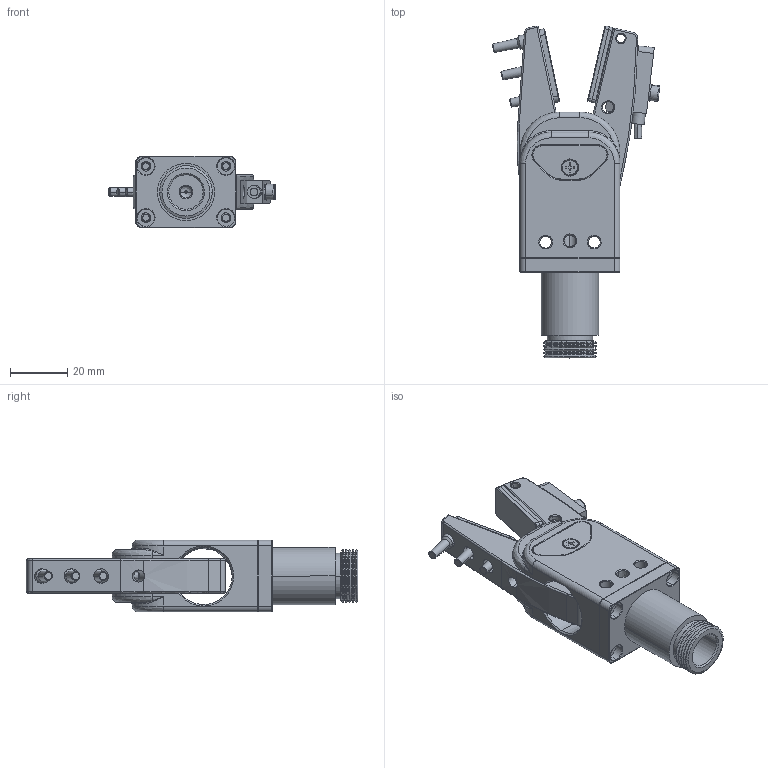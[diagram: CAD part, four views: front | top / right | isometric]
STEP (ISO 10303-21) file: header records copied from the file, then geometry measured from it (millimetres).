
FILE_DESCRIPTION (( 'STEP AP203' ), '1' );
FILE_NAME ('GR20F-20-CN.STEP', '2024-05-23T06:35:26', ( '微软用户' ), ( '微软中国' ), 'SwSTEP 2.0', 'SolidWorks 2018', '' );
FILE_SCHEMA (( 'CONFIG_CONTROL_DESIGN' ));
Length unit declared in the file: millimetre
Products named in the file (1): GR20F-20-CN
Bounding box: 58.57 x 116.11 x 25 mm (x, y, z)
Surface area: 30709.2 mm2 (no closed solid volume)
Topology: 0 solids, 11 shells, 1132 faces, 2686 edges, 1581 vertices
Faces by surface type: bspline 334, cylinder 301, plane 246, cone 237, sphere 12, torus 2
Entity records: 36707 total; most frequent: CARTESIAN_POINT 13377, ORIENTED_EDGE 5276, DIRECTION 4341, EDGE_CURVE 2662, AXIS2_PLACEMENT_3D 1633, VERTEX_POINT 1573, EDGE_LOOP 1230, ADVANCED_FACE 1132
